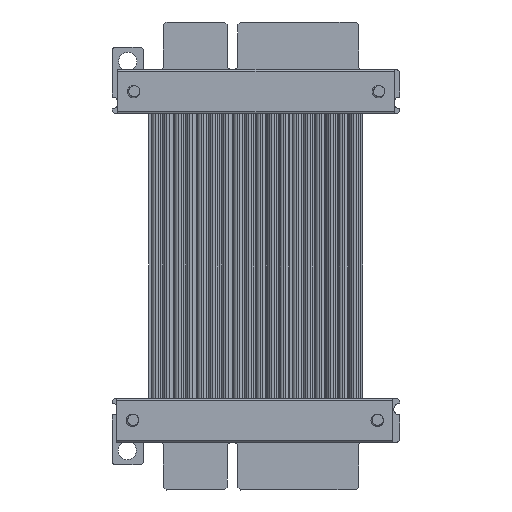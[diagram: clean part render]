
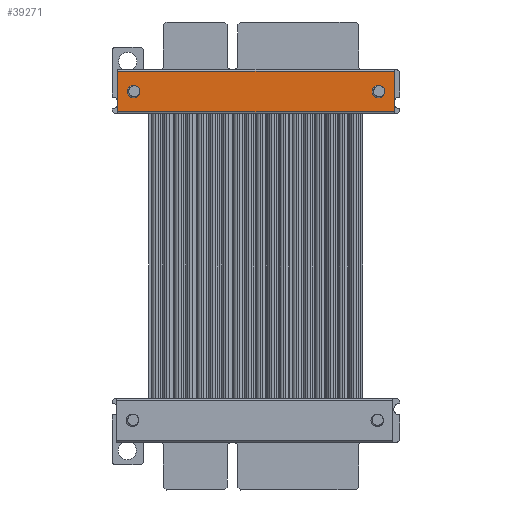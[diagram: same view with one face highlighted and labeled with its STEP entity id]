
A CAD part, top view. The second image highlights one B-rep face of the part: STEP entity #39271.
In plain terms, the highlighted planar face has unit normal (0, 0, 1) as drawn and (-1, 0, 0) by its records, which use the part's own axes.
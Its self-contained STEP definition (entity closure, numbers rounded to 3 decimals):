
#39243 = VERTEX_POINT('',#39244);
#39244 = CARTESIAN_POINT('',(0.,7.1,0.));
#39251 = EDGE_CURVE('',#39252,#39243,#39254,.T.);
#39252 = VERTEX_POINT('',#39253);
#39253 = CARTESIAN_POINT('',(0.,7.1,48.4));
#39254 = LINE('',#39255,#39256);
#39255 = CARTESIAN_POINT('',(0.,7.1,48.4));
#39256 = VECTOR('',#39257,1.);
#39257 = DIRECTION('',(-0.,-0.,-1.));
#39271 = ADVANCED_FACE('',(#39272,#39283,#39303),#39328,.F.);
#39272 = FACE_BOUND('',#39273,.F.);
#39273 = EDGE_LOOP('',(#39274));
#39274 = ORIENTED_EDGE('',*,*,#39275,.T.);
#39275 = EDGE_CURVE('',#39276,#39276,#39278,.T.);
#39276 = VERTEX_POINT('',#39277);
#39277 = CARTESIAN_POINT('',(0.,2.45,2.75));
#39278 = CIRCLE('',#39279,1.1);
#39279 = AXIS2_PLACEMENT_3D('',#39280,#39281,#39282);
#39280 = CARTESIAN_POINT('',(0.,3.55,2.75));
#39281 = DIRECTION('',(-1.,0.,0.));
#39282 = DIRECTION('',(0.,-1.,0.));
#39283 = FACE_BOUND('',#39284,.F.);
#39284 = EDGE_LOOP('',(#39285,#39296));
#39285 = ORIENTED_EDGE('',*,*,#39286,.T.);
#39286 = EDGE_CURVE('',#39287,#39289,#39291,.T.);
#39287 = VERTEX_POINT('',#39288);
#39288 = CARTESIAN_POINT('',(0.,4.65,45.65));
#39289 = VERTEX_POINT('',#39290);
#39290 = CARTESIAN_POINT('',(0.,2.45,45.65));
#39291 = CIRCLE('',#39292,1.1);
#39292 = AXIS2_PLACEMENT_3D('',#39293,#39294,#39295);
#39293 = CARTESIAN_POINT('',(0.,3.55,45.65));
#39294 = DIRECTION('',(-1.,0.,0.));
#39295 = DIRECTION('',(0.,1.,0.));
#39296 = ORIENTED_EDGE('',*,*,#39297,.T.);
#39297 = EDGE_CURVE('',#39289,#39287,#39298,.T.);
#39298 = CIRCLE('',#39299,1.1);
#39299 = AXIS2_PLACEMENT_3D('',#39300,#39301,#39302);
#39300 = CARTESIAN_POINT('',(0.,3.55,45.65));
#39301 = DIRECTION('',(-1.,0.,0.));
#39302 = DIRECTION('',(0.,1.,0.));
#39303 = FACE_BOUND('',#39304,.T.);
#39304 = EDGE_LOOP('',(#39305,#39313,#39321,#39327));
#39305 = ORIENTED_EDGE('',*,*,#39306,.T.);
#39306 = EDGE_CURVE('',#39243,#39307,#39309,.T.);
#39307 = VERTEX_POINT('',#39308);
#39308 = CARTESIAN_POINT('',(0.,0.,0.));
#39309 = LINE('',#39310,#39311);
#39310 = CARTESIAN_POINT('',(0.,0.,0.));
#39311 = VECTOR('',#39312,1.);
#39312 = DIRECTION('',(0.,-1.,-0.));
#39313 = ORIENTED_EDGE('',*,*,#39314,.F.);
#39314 = EDGE_CURVE('',#39315,#39307,#39317,.T.);
#39315 = VERTEX_POINT('',#39316);
#39316 = CARTESIAN_POINT('',(0.,0.,48.4));
#39317 = LINE('',#39318,#39319);
#39318 = CARTESIAN_POINT('',(0.,0.,48.4));
#39319 = VECTOR('',#39320,1.);
#39320 = DIRECTION('',(-0.,-0.,-1.));
#39321 = ORIENTED_EDGE('',*,*,#39322,.F.);
#39322 = EDGE_CURVE('',#39252,#39315,#39323,.T.);
#39323 = LINE('',#39324,#39325);
#39324 = CARTESIAN_POINT('',(0.,0.,48.4));
#39325 = VECTOR('',#39326,1.);
#39326 = DIRECTION('',(0.,-1.,-0.));
#39327 = ORIENTED_EDGE('',*,*,#39251,.T.);
#39328 = PLANE('',#39329);
#39329 = AXIS2_PLACEMENT_3D('',#39330,#39331,#39332);
#39330 = CARTESIAN_POINT('',(0.,0.,48.4));
#39331 = DIRECTION('',(1.,0.,0.));
#39332 = DIRECTION('',(0.,1.,0.));
